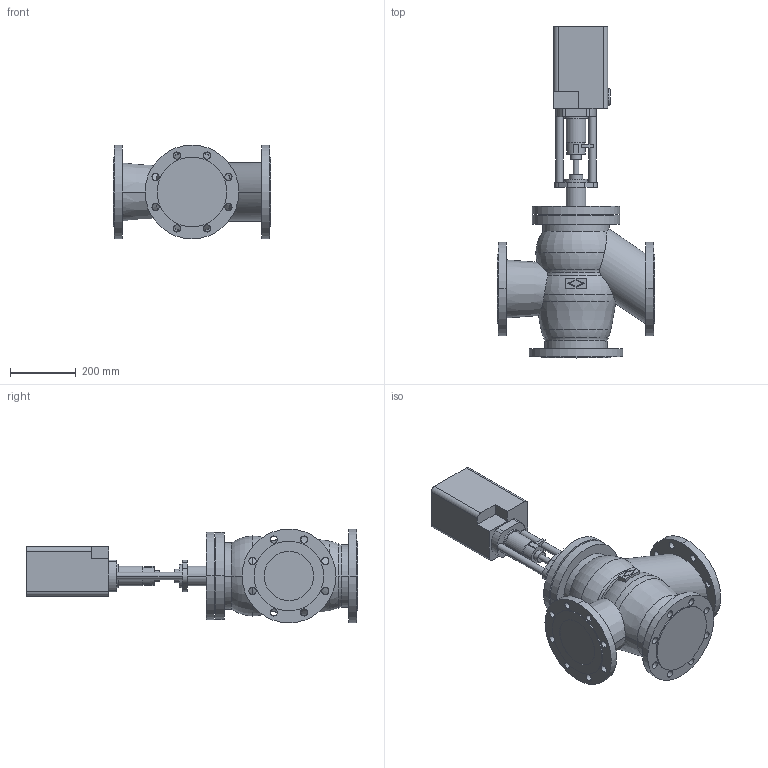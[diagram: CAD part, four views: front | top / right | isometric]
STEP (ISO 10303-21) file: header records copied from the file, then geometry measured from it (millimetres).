
FILE_DESCRIPTION(('OneSpaceDesigner STEP Export'),'2;1');
FILE_NAME('c000000400.stp','2007-01-26T12:28:38',(''),(''),'OneSpace Designer STEP processor for AP214 (Solid Model)','OneSpace Designer 14.00B 27-May-2006 (C) CoCreate Software GmbH','');
FILE_SCHEMA(('AUTOMOTIVE_DESIGN { 1 0 10303 214 1 1 1 1 }'));
Length unit declared in the file: millimetre
Products named in the file (2): 1; 2
Bounding box: 480 x 1010 x 285 mm (x, y, z)
Volume: 35402623.1 mm3; surface area: 1229723.9 mm2
Topology: 2 solids, 2 shells, 218 faces, 544 edges, 358 vertices
Faces by surface type: cylinder 114, plane 82, torus 18, cone 4
Entity records: 6154 total; most frequent: CARTESIAN_POINT 1275, ORIENTED_EDGE 1088, DIRECTION 885, EDGE_CURVE 544, VERTEX_POINT 358, AXIS2_PLACEMENT_3D 324, EDGE_LOOP 294, VECTOR 237
